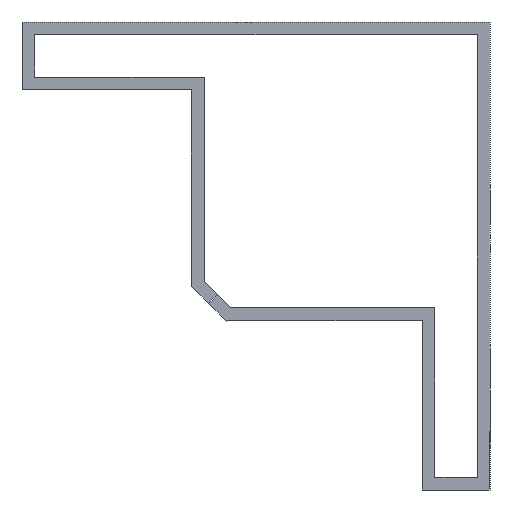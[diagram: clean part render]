
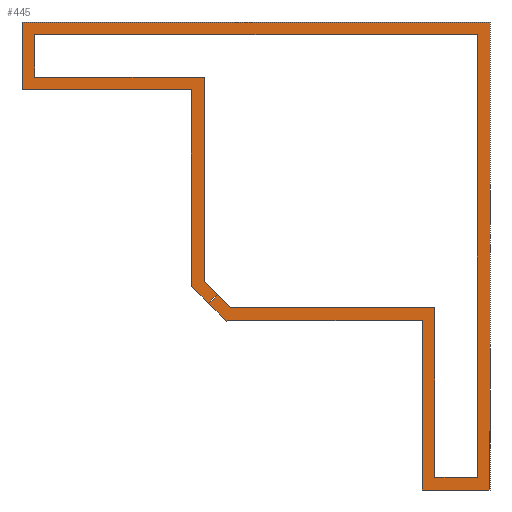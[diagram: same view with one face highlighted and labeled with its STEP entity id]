
A CAD part, front view. The second image highlights one B-rep face of the part: STEP entity #445.
In plain terms, the highlighted planar face has unit normal (0, -1, 0).
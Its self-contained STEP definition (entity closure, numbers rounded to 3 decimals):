
#119 = VERTEX_POINT('',#120);
#120 = CARTESIAN_POINT('',(-49.7,0.,-7.2));
#126 = EDGE_CURVE('',#127,#119,#129,.T.);
#127 = VERTEX_POINT('',#128);
#128 = CARTESIAN_POINT('',(-31.7,0.,-7.2));
#129 = LINE('',#130,#131);
#130 = CARTESIAN_POINT('',(-31.7,0.,-7.2));
#131 = VECTOR('',#132,1.);
#132 = DIRECTION('',(-1.,0.,0.));
#185 = VERTEX_POINT('',#186);
#186 = CARTESIAN_POINT('',(-48.35,0.,-5.85));
#194 = EDGE_CURVE('',#185,#195,#197,.T.);
#195 = VERTEX_POINT('',#196);
#196 = CARTESIAN_POINT('',(-30.35,0.,-5.85));
#197 = LINE('',#198,#199);
#198 = CARTESIAN_POINT('',(-48.35,0.,-5.85));
#199 = VECTOR('',#200,1.);
#200 = DIRECTION('',(1.,0.,0.));
#445 = ADVANCED_FACE('',(#446),#614,.T.);
#446 = FACE_BOUND('',#447,.T.);
#447 = EDGE_LOOP('',(#448,#449,#457,#465,#473,#481,#487,#488,#496,#504,
    #512,#520,#528,#536,#544,#552,#560,#568,#576,#584,#592,#600,#608));
#448 = ORIENTED_EDGE('',*,*,#126,.F.);
#449 = ORIENTED_EDGE('',*,*,#450,.T.);
#450 = EDGE_CURVE('',#127,#451,#453,.T.);
#451 = VERTEX_POINT('',#452);
#452 = CARTESIAN_POINT('',(-31.7,0.,-28.081));
#453 = LINE('',#454,#455);
#454 = CARTESIAN_POINT('',(-31.7,0.,-7.2));
#455 = VECTOR('',#456,1.);
#456 = DIRECTION('',(0.,0.,-1.));
#457 = ORIENTED_EDGE('',*,*,#458,.T.);
#458 = EDGE_CURVE('',#451,#459,#461,.T.);
#459 = VERTEX_POINT('',#460);
#460 = CARTESIAN_POINT('',(-29.908,0.,-29.873));
#461 = LINE('',#462,#463);
#462 = CARTESIAN_POINT('',(-31.7,0.,-28.081));
#463 = VECTOR('',#464,1.);
#464 = DIRECTION('',(0.707,0.,-0.707)
  );
#465 = ORIENTED_EDGE('',*,*,#466,.F.);
#466 = EDGE_CURVE('',#467,#459,#469,.T.);
#467 = VERTEX_POINT('',#468);
#468 = CARTESIAN_POINT('',(-28.953,0.,-28.918));
#469 = LINE('',#470,#471);
#470 = CARTESIAN_POINT('',(-29.908,0.,-29.873));
#471 = VECTOR('',#472,1.);
#472 = DIRECTION('',(-0.707,-0.,-0.707));
#473 = ORIENTED_EDGE('',*,*,#474,.T.);
#474 = EDGE_CURVE('',#467,#475,#477,.T.);
#475 = VERTEX_POINT('',#476);
#476 = CARTESIAN_POINT('',(-30.35,0.,-27.522));
#477 = LINE('',#478,#479);
#478 = CARTESIAN_POINT('',(-28.953,0.,-28.918));
#479 = VECTOR('',#480,1.);
#480 = DIRECTION('',(-0.707,0.,0.707));
#481 = ORIENTED_EDGE('',*,*,#482,.T.);
#482 = EDGE_CURVE('',#475,#195,#483,.T.);
#483 = LINE('',#484,#485);
#484 = CARTESIAN_POINT('',(-30.35,0.,-27.522));
#485 = VECTOR('',#486,1.);
#486 = DIRECTION('',(0.,0.,1.));
#487 = ORIENTED_EDGE('',*,*,#194,.F.);
#488 = ORIENTED_EDGE('',*,*,#489,.T.);
#489 = EDGE_CURVE('',#185,#490,#492,.T.);
#490 = VERTEX_POINT('',#491);
#491 = CARTESIAN_POINT('',(-48.35,0.,-1.35));
#492 = LINE('',#493,#494);
#493 = CARTESIAN_POINT('',(-48.35,0.,-5.85));
#494 = VECTOR('',#495,1.);
#495 = DIRECTION('',(0.,0.,1.));
#496 = ORIENTED_EDGE('',*,*,#497,.T.);
#497 = EDGE_CURVE('',#490,#498,#500,.T.);
#498 = VERTEX_POINT('',#499);
#499 = CARTESIAN_POINT('',(-1.35,0.,-1.35));
#500 = LINE('',#501,#502);
#501 = CARTESIAN_POINT('',(-48.35,0.,-1.35));
#502 = VECTOR('',#503,1.);
#503 = DIRECTION('',(1.,0.,0.));
#504 = ORIENTED_EDGE('',*,*,#505,.T.);
#505 = EDGE_CURVE('',#498,#506,#508,.T.);
#506 = VERTEX_POINT('',#507);
#507 = CARTESIAN_POINT('',(-1.35,0.,-48.35));
#508 = LINE('',#509,#510);
#509 = CARTESIAN_POINT('',(-1.35,0.,-1.35));
#510 = VECTOR('',#511,1.);
#511 = DIRECTION('',(0.,0.,-1.));
#512 = ORIENTED_EDGE('',*,*,#513,.T.);
#513 = EDGE_CURVE('',#506,#514,#516,.T.);
#514 = VERTEX_POINT('',#515);
#515 = CARTESIAN_POINT('',(-5.85,0.,-48.35));
#516 = LINE('',#517,#518);
#517 = CARTESIAN_POINT('',(-1.35,0.,-48.35));
#518 = VECTOR('',#519,1.);
#519 = DIRECTION('',(-1.,0.,0.));
#520 = ORIENTED_EDGE('',*,*,#521,.T.);
#521 = EDGE_CURVE('',#514,#522,#524,.T.);
#522 = VERTEX_POINT('',#523);
#523 = CARTESIAN_POINT('',(-5.85,0.,-30.35));
#524 = LINE('',#525,#526);
#525 = CARTESIAN_POINT('',(-5.85,0.,-48.35));
#526 = VECTOR('',#527,1.);
#527 = DIRECTION('',(0.,0.,1.));
#528 = ORIENTED_EDGE('',*,*,#529,.T.);
#529 = EDGE_CURVE('',#522,#530,#532,.T.);
#530 = VERTEX_POINT('',#531);
#531 = CARTESIAN_POINT('',(-27.522,0.,-30.35));
#532 = LINE('',#533,#534);
#533 = CARTESIAN_POINT('',(-5.85,0.,-30.35));
#534 = VECTOR('',#535,1.);
#535 = DIRECTION('',(-1.,0.,0.));
#536 = ORIENTED_EDGE('',*,*,#537,.T.);
#537 = EDGE_CURVE('',#530,#538,#540,.T.);
#538 = VERTEX_POINT('',#539);
#539 = CARTESIAN_POINT('',(-28.918,0.,-28.953));
#540 = LINE('',#541,#542);
#541 = CARTESIAN_POINT('',(-27.522,0.,-30.35));
#542 = VECTOR('',#543,1.);
#543 = DIRECTION('',(-0.707,0.,0.707));
#544 = ORIENTED_EDGE('',*,*,#545,.F.);
#545 = EDGE_CURVE('',#546,#538,#548,.T.);
#546 = VERTEX_POINT('',#547);
#547 = CARTESIAN_POINT('',(-29.873,0.,-29.908));
#548 = LINE('',#549,#550);
#549 = CARTESIAN_POINT('',(-29.873,0.,-29.908));
#550 = VECTOR('',#551,1.);
#551 = DIRECTION('',(0.707,0.,0.707));
#552 = ORIENTED_EDGE('',*,*,#553,.T.);
#553 = EDGE_CURVE('',#546,#554,#556,.T.);
#554 = VERTEX_POINT('',#555);
#555 = CARTESIAN_POINT('',(-27.996,0.,
    -31.784));
#556 = LINE('',#557,#558);
#557 = CARTESIAN_POINT('',(-29.873,0.,-29.908));
#558 = VECTOR('',#559,1.);
#559 = DIRECTION('',(0.707,0.,-0.707)
  );
#560 = ORIENTED_EDGE('',*,*,#561,.F.);
#561 = EDGE_CURVE('',#562,#554,#564,.T.);
#562 = VERTEX_POINT('',#563);
#563 = CARTESIAN_POINT('',(-27.85,0.,-31.7));
#564 = LINE('',#565,#566);
#565 = CARTESIAN_POINT('',(-21.303,0.,-27.92));
#566 = VECTOR('',#567,1.);
#567 = DIRECTION('',(-0.866,-0.,-0.5));
#568 = ORIENTED_EDGE('',*,*,#569,.T.);
#569 = EDGE_CURVE('',#562,#570,#572,.T.);
#570 = VERTEX_POINT('',#571);
#571 = CARTESIAN_POINT('',(-7.2,0.,-31.7));
#572 = LINE('',#573,#574);
#573 = CARTESIAN_POINT('',(-27.85,0.,-31.7));
#574 = VECTOR('',#575,1.);
#575 = DIRECTION('',(1.,0.,0.));
#576 = ORIENTED_EDGE('',*,*,#577,.T.);
#577 = EDGE_CURVE('',#570,#578,#580,.T.);
#578 = VERTEX_POINT('',#579);
#579 = CARTESIAN_POINT('',(-7.2,0.,-49.7));
#580 = LINE('',#581,#582);
#581 = CARTESIAN_POINT('',(-7.2,0.,-31.7));
#582 = VECTOR('',#583,1.);
#583 = DIRECTION('',(0.,0.,-1.));
#584 = ORIENTED_EDGE('',*,*,#585,.T.);
#585 = EDGE_CURVE('',#578,#586,#588,.T.);
#586 = VERTEX_POINT('',#587);
#587 = CARTESIAN_POINT('',(0.,0.,-49.7));
#588 = LINE('',#589,#590);
#589 = CARTESIAN_POINT('',(-7.2,0.,-49.7));
#590 = VECTOR('',#591,1.);
#591 = DIRECTION('',(1.,0.,0.));
#592 = ORIENTED_EDGE('',*,*,#593,.T.);
#593 = EDGE_CURVE('',#586,#594,#596,.T.);
#594 = VERTEX_POINT('',#595);
#595 = CARTESIAN_POINT('',(0.,0.,0.));
#596 = LINE('',#597,#598);
#597 = CARTESIAN_POINT('',(0.,0.,-49.7));
#598 = VECTOR('',#599,1.);
#599 = DIRECTION('',(0.,0.,1.));
#600 = ORIENTED_EDGE('',*,*,#601,.T.);
#601 = EDGE_CURVE('',#594,#602,#604,.T.);
#602 = VERTEX_POINT('',#603);
#603 = CARTESIAN_POINT('',(-49.7,0.,0.));
#604 = LINE('',#605,#606);
#605 = CARTESIAN_POINT('',(0.,0.,0.));
#606 = VECTOR('',#607,1.);
#607 = DIRECTION('',(-1.,0.,0.));
#608 = ORIENTED_EDGE('',*,*,#609,.T.);
#609 = EDGE_CURVE('',#602,#119,#610,.T.);
#610 = LINE('',#611,#612);
#611 = CARTESIAN_POINT('',(-49.7,0.,0.));
#612 = VECTOR('',#613,1.);
#613 = DIRECTION('',(0.,0.,-1.));
#614 = PLANE('',#615);
#615 = AXIS2_PLACEMENT_3D('',#616,#617,#618);
#616 = CARTESIAN_POINT('',(0.,0.,-49.7));
#617 = DIRECTION('',(0.,-1.,0.));
#618 = DIRECTION('',(0.,-0.,-1.));
